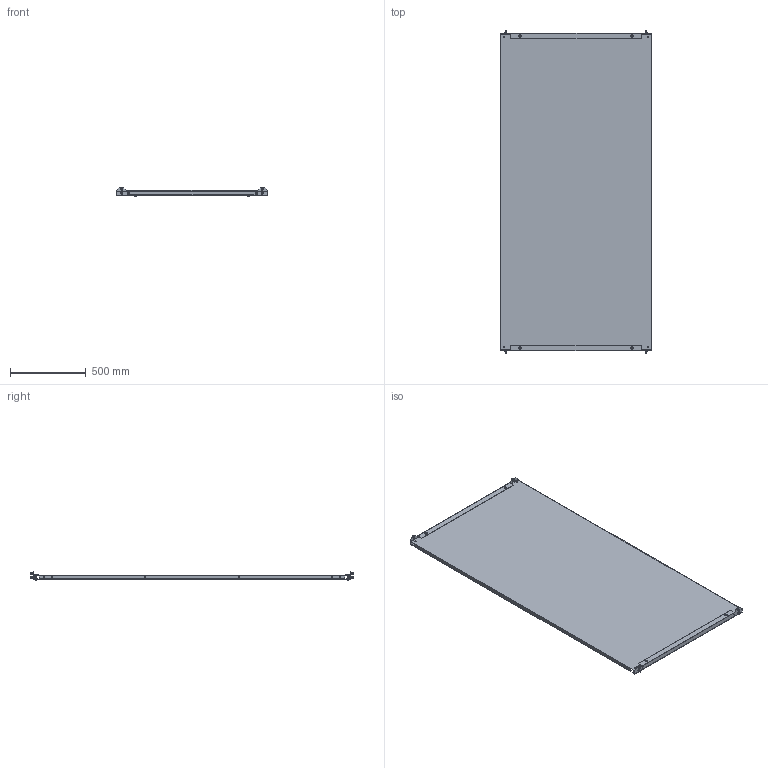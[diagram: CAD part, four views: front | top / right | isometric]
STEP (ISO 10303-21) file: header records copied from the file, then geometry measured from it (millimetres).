
FILE_DESCRIPTION(('Open CASCADE Model'),'2;1');
FILE_NAME('Open CASCADE Shape Model','2025-02-13T16:49:47',('Author'),( 'Open CASCADE'),'Open CASCADE STEP processor 7.8','Open CASCADE 7.8' ,'Unknown');
FILE_SCHEMA(('AUTOMOTIVE_DESIGN { 1 0 10303 214 1 1 1 1 }'));
Length unit declared in the file: millimetre
Products named in the file (11): Compound1; Solid1; Compound2; Solid2; Solid3; Solid4; Solid5; Solid6; Solid7; Solid8; Solid9
Assembly tree (38 placements, depth 3):
  Compound1
    Solid1
    Compound2  x2
      Solid2
      Solid3
    Solid4  x4
    Solid5  x4
    Solid6  x4
    Solid7  x4
    Solid8  x8
    Solid9  x8
Bounding box: 1000 x 2126 x 55.3 mm (x, y, z)
Volume: 6278534 mm3; surface area: 5060546.8 mm2
Topology: 39 solids, 39 shells, 2692 faces, 7206 edges, 4528 vertices
Faces by surface type: plane 1298, cylinder 730, bspline 304, cone 228, torus 128, sphere 4
Full cylindrical faces by diameter (mm): 5 x12, 6 x16, 6.5 x8, 6.8 x32, 8 x4, 8.3 x8, 8.4 x4, 9.5 x8, 10.1 x4, 10.44 x4, 10.5 x4, 11.57 x8, 12 x4, 12.65 x4, 16 x12, 16.55 x4
Entity records: 23066 total; most frequent: CARTESIAN_POINT 6118, ORIENTED_EDGE 3604, DIRECTION 3274, EDGE_CURVE 1802, VERTEX_POINT 1154, LINE 1150, VECTOR 1150, AXIS2_PLACEMENT_3D 1062
